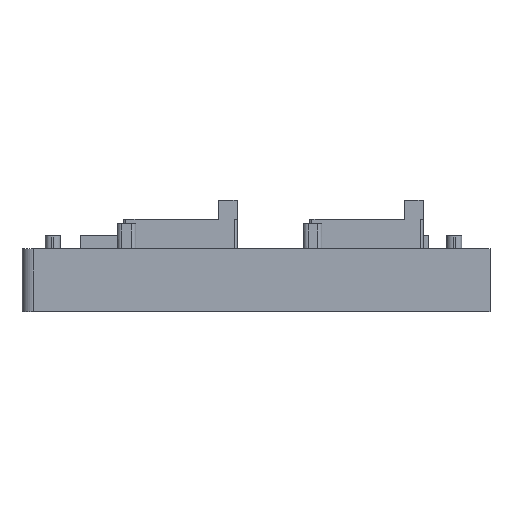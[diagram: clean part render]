
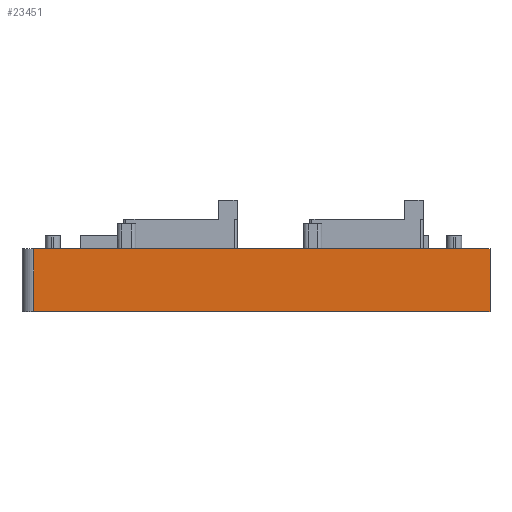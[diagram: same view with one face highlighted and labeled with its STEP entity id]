
A CAD part, front view. The second image highlights one B-rep face of the part: STEP entity #23451.
In plain terms, the highlighted planar face has unit normal (0, -1, 0).
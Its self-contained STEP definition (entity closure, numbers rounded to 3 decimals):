
#32 = PLANE('',#33);
#33 = AXIS2_PLACEMENT_3D('',#34,#35,#36);
#34 = CARTESIAN_POINT('',(70.,-5.6,10.8));
#35 = DIRECTION('',(0.,0.,1.));
#36 = DIRECTION('',(1.,0.,-0.));
#57 = VERTEX_POINT('',#58);
#58 = CARTESIAN_POINT('',(72.,-5.6,10.8));
#73 = CYLINDRICAL_SURFACE('',#74,2.);
#74 = AXIS2_PLACEMENT_3D('',#75,#76,#77);
#75 = CARTESIAN_POINT('',(72.,-3.6,0.));
#76 = DIRECTION('',(0.,0.,1.));
#77 = DIRECTION('',(-1.,-0.,0.));
#85 = EDGE_CURVE('',#57,#86,#88,.T.);
#86 = VERTEX_POINT('',#87);
#87 = CARTESIAN_POINT('',(150.5,-5.6,10.8));
#88 = SURFACE_CURVE('',#89,(#93,#100),.PCURVE_S1.);
#89 = LINE('',#90,#91);
#90 = CARTESIAN_POINT('',(72.,-5.6,10.8));
#91 = VECTOR('',#92,1.);
#92 = DIRECTION('',(1.,0.,0.));
#93 = PCURVE('',#32,#94);
#94 = DEFINITIONAL_REPRESENTATION('',(#95),#99);
#95 = LINE('',#96,#97);
#96 = CARTESIAN_POINT('',(2.,0.));
#97 = VECTOR('',#98,1.);
#98 = DIRECTION('',(1.,0.));
#99 = ( GEOMETRIC_REPRESENTATION_CONTEXT(2) 
PARAMETRIC_REPRESENTATION_CONTEXT() REPRESENTATION_CONTEXT('2D SPACE',''
  ) );
#100 = PCURVE('',#101,#106);
#101 = PLANE('',#102);
#102 = AXIS2_PLACEMENT_3D('',#103,#104,#105);
#103 = CARTESIAN_POINT('',(70.,-5.6,0.));
#104 = DIRECTION('',(0.,1.,0.));
#105 = DIRECTION('',(0.,-0.,1.));
#106 = DEFINITIONAL_REPRESENTATION('',(#107),#111);
#107 = LINE('',#108,#109);
#108 = CARTESIAN_POINT('',(10.8,2.));
#109 = VECTOR('',#110,1.);
#110 = DIRECTION('',(0.,1.));
#111 = ( GEOMETRIC_REPRESENTATION_CONTEXT(2) 
PARAMETRIC_REPRESENTATION_CONTEXT() REPRESENTATION_CONTEXT('2D SPACE',''
  ) );
#128 = PLANE('',#129);
#129 = AXIS2_PLACEMENT_3D('',#130,#131,#132);
#130 = CARTESIAN_POINT('',(150.5,-7.,0.));
#131 = DIRECTION('',(1.,0.,0.));
#132 = DIRECTION('',(0.,0.,1.));
#657 = VERTEX_POINT('',#658);
#658 = CARTESIAN_POINT('',(72.,-5.6,0.));
#673 = PLANE('',#674);
#674 = AXIS2_PLACEMENT_3D('',#675,#676,#677);
#675 = CARTESIAN_POINT('',(70.,-5.6,0.));
#676 = DIRECTION('',(0.,0.,1.));
#677 = DIRECTION('',(1.,0.,-0.));
#685 = EDGE_CURVE('',#657,#57,#686,.T.);
#686 = SURFACE_CURVE('',#687,(#691,#698),.PCURVE_S1.);
#687 = LINE('',#688,#689);
#688 = CARTESIAN_POINT('',(72.,-5.6,0.));
#689 = VECTOR('',#690,1.);
#690 = DIRECTION('',(0.,0.,1.));
#691 = PCURVE('',#73,#692);
#692 = DEFINITIONAL_REPRESENTATION('',(#693),#697);
#693 = LINE('',#694,#695);
#694 = CARTESIAN_POINT('',(1.571,0.));
#695 = VECTOR('',#696,1.);
#696 = DIRECTION('',(0.,1.));
#697 = ( GEOMETRIC_REPRESENTATION_CONTEXT(2) 
PARAMETRIC_REPRESENTATION_CONTEXT() REPRESENTATION_CONTEXT('2D SPACE',''
  ) );
#698 = PCURVE('',#101,#699);
#699 = DEFINITIONAL_REPRESENTATION('',(#700),#704);
#700 = LINE('',#701,#702);
#701 = CARTESIAN_POINT('',(0.,2.));
#702 = VECTOR('',#703,1.);
#703 = DIRECTION('',(1.,0.));
#704 = ( GEOMETRIC_REPRESENTATION_CONTEXT(2) 
PARAMETRIC_REPRESENTATION_CONTEXT() REPRESENTATION_CONTEXT('2D SPACE',''
  ) );
#804 = EDGE_CURVE('',#805,#657,#807,.T.);
#805 = VERTEX_POINT('',#806);
#806 = CARTESIAN_POINT('',(150.5,-5.6,0.));
#807 = SURFACE_CURVE('',#808,(#812,#819),.PCURVE_S1.);
#808 = LINE('',#809,#810);
#809 = CARTESIAN_POINT('',(189.,-5.6,0.));
#810 = VECTOR('',#811,1.);
#811 = DIRECTION('',(-1.,0.,0.));
#812 = PCURVE('',#673,#813);
#813 = DEFINITIONAL_REPRESENTATION('',(#814),#818);
#814 = LINE('',#815,#816);
#815 = CARTESIAN_POINT('',(119.,0.));
#816 = VECTOR('',#817,1.);
#817 = DIRECTION('',(-1.,0.));
#818 = ( GEOMETRIC_REPRESENTATION_CONTEXT(2) 
PARAMETRIC_REPRESENTATION_CONTEXT() REPRESENTATION_CONTEXT('2D SPACE',''
  ) );
#819 = PCURVE('',#101,#820);
#820 = DEFINITIONAL_REPRESENTATION('',(#821),#825);
#821 = LINE('',#822,#823);
#822 = CARTESIAN_POINT('',(0.,119.));
#823 = VECTOR('',#824,1.);
#824 = DIRECTION('',(0.,-1.));
#825 = ( GEOMETRIC_REPRESENTATION_CONTEXT(2) 
PARAMETRIC_REPRESENTATION_CONTEXT() REPRESENTATION_CONTEXT('2D SPACE',''
  ) );
#23451 = ADVANCED_FACE('',(#23452),#101,.F.);
#23452 = FACE_BOUND('',#23453,.F.);
#23453 = EDGE_LOOP('',(#23454,#23455,#23456,#23457));
#23454 = ORIENTED_EDGE('',*,*,#804,.T.);
#23455 = ORIENTED_EDGE('',*,*,#685,.T.);
#23456 = ORIENTED_EDGE('',*,*,#85,.T.);
#23457 = ORIENTED_EDGE('',*,*,#23458,.T.);
#23458 = EDGE_CURVE('',#86,#805,#23459,.T.);
#23459 = SURFACE_CURVE('',#23460,(#23464,#23470),.PCURVE_S1.);
#23460 = LINE('',#23461,#23462);
#23461 = CARTESIAN_POINT('',(150.5,-5.6,0.));
#23462 = VECTOR('',#23463,1.);
#23463 = DIRECTION('',(0.,0.,-1.));
#23464 = PCURVE('',#101,#23465);
#23465 = DEFINITIONAL_REPRESENTATION('',(#23466),#23469);
#23466 = B_SPLINE_CURVE_WITH_KNOTS('',1,(#23467,#23468),.UNSPECIFIED.,
  .F.,.F.,(2,2),(-10.8,0.),.PIECEWISE_BEZIER_KNOTS.);
#23467 = CARTESIAN_POINT('',(10.8,80.5));
#23468 = CARTESIAN_POINT('',(0.,80.5));
#23469 = ( GEOMETRIC_REPRESENTATION_CONTEXT(2) 
PARAMETRIC_REPRESENTATION_CONTEXT() REPRESENTATION_CONTEXT('2D SPACE',''
  ) );
#23470 = PCURVE('',#128,#23471);
#23471 = DEFINITIONAL_REPRESENTATION('',(#23472),#23475);
#23472 = B_SPLINE_CURVE_WITH_KNOTS('',1,(#23473,#23474),.UNSPECIFIED.,
  .F.,.F.,(2,2),(-10.8,0.),.PIECEWISE_BEZIER_KNOTS.);
#23473 = CARTESIAN_POINT('',(10.8,-1.4));
#23474 = CARTESIAN_POINT('',(0.,-1.4));
#23475 = ( GEOMETRIC_REPRESENTATION_CONTEXT(2) 
PARAMETRIC_REPRESENTATION_CONTEXT() REPRESENTATION_CONTEXT('2D SPACE',''
  ) );
